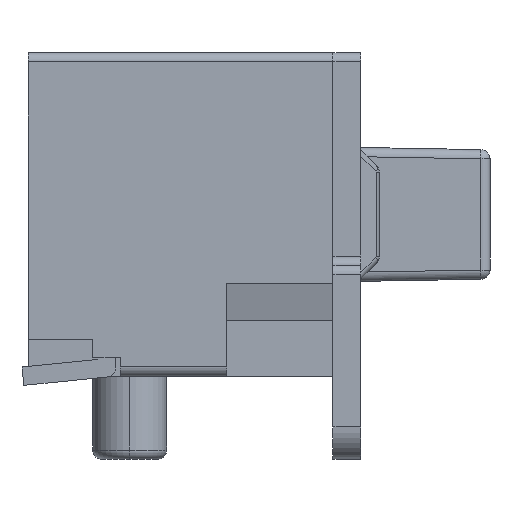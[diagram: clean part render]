
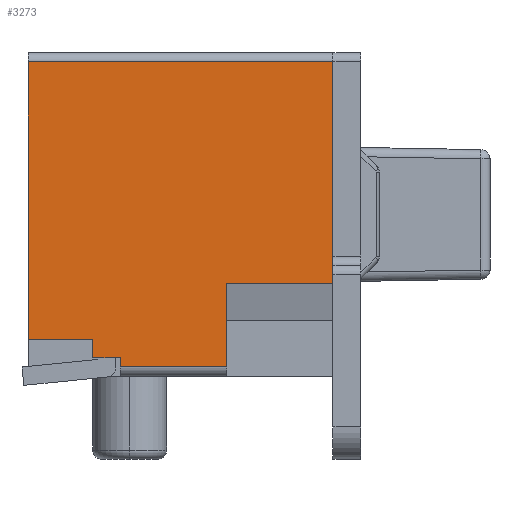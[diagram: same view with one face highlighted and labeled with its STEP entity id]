
A CAD part, left-side view. The second image highlights one B-rep face of the part: STEP entity #3273.
In plain terms, the highlighted planar face has unit normal (-1, 0, 0).
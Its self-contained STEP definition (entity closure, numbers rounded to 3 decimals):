
#132=DIRECTION('',(0.,0.,1.));
#133=VECTOR('',#132,2.4);
#134=CARTESIAN_POINT('',(-3.,0.,-0.75));
#135=LINE('',#134,#133);
#895=DIRECTION('',(0.,0.,1.));
#896=VECTOR('',#895,3.);
#897=CARTESIAN_POINT('',(-3.,3.3,-1.35));
#898=LINE('',#897,#896);
#973=DIRECTION('',(0.,-1.,0.));
#974=VECTOR('',#973,3.3);
#975=CARTESIAN_POINT('',(-3.,3.3,1.65));
#976=LINE('',#975,#974);
#980=DIRECTION('',(0.,1.,0.));
#981=VECTOR('',#980,1.15);
#982=CARTESIAN_POINT('',(-3.,0.,-0.75));
#983=LINE('',#982,#981);
#987=DIRECTION('',(0.,0.,1.));
#988=VECTOR('',#987,0.9);
#989=CARTESIAN_POINT('',(-3.,1.15,-1.65));
#990=LINE('',#989,#988);
#994=DIRECTION('',(0.,-1.,0.));
#995=VECTOR('',#994,1.15);
#996=CARTESIAN_POINT('',(-3.,2.3,-1.65));
#997=LINE('',#996,#995);
#1001=DIRECTION('',(0.,0.,-1.));
#1002=VECTOR('',#1001,0.1);
#1003=CARTESIAN_POINT('',(-3.,2.3,-1.55));
#1004=LINE('',#1003,#1002);
#1008=DIRECTION('',(0.,1.,0.));
#1009=VECTOR('',#1008,0.3);
#1010=CARTESIAN_POINT('',(-3.,2.3,-1.55));
#1011=LINE('',#1010,#1009);
#1015=DIRECTION('',(0.,0.,1.));
#1016=VECTOR('',#1015,0.2);
#1017=CARTESIAN_POINT('',(-3.,2.6,-1.55));
#1018=LINE('',#1017,#1016);
#1022=DIRECTION('',(0.,1.,0.));
#1023=VECTOR('',#1022,0.7);
#1024=CARTESIAN_POINT('',(-3.,2.6,-1.35));
#1025=LINE('',#1024,#1023);
#2146=CARTESIAN_POINT('',(-3.,2.3,-1.55));
#2147=CARTESIAN_POINT('',(-3.,2.6,-1.55));
#2148=VERTEX_POINT('',#2146);
#2149=VERTEX_POINT('',#2147);
#2150=CARTESIAN_POINT('',(-3.,2.6,-1.35));
#2151=CARTESIAN_POINT('',(-3.,3.3,-1.35));
#2152=VERTEX_POINT('',#2150);
#2153=VERTEX_POINT('',#2151);
#2254=CARTESIAN_POINT('',(-3.,0.,-0.75));
#2255=CARTESIAN_POINT('',(-3.,1.15,-0.75));
#2256=VERTEX_POINT('',#2254);
#2257=VERTEX_POINT('',#2255);
#2359=CARTESIAN_POINT('',(-3.,0.,1.65));
#2361=VERTEX_POINT('',#2359);
#2362=CARTESIAN_POINT('',(-3.,3.3,1.65));
#2363=VERTEX_POINT('',#2362);
#2366=CARTESIAN_POINT('',(-3.,1.15,-1.65));
#2368=VERTEX_POINT('',#2366);
#2372=CARTESIAN_POINT('',(-3.,2.3,-1.65));
#2373=VERTEX_POINT('',#2372);
#3249=CARTESIAN_POINT('',(-3.,0.,-1.75));
#3250=DIRECTION('',(-1.,0.,0.));
#3251=DIRECTION('',(0.,0.,1.));
#3252=AXIS2_PLACEMENT_3D('',#3249,#3250,#3251);
#3253=PLANE('',#3252);
#3254=ORIENTED_EDGE('',*,*,#3242,.T.);
#3255=ORIENTED_EDGE('',*,*,#2469,.F.);
#3257=ORIENTED_EDGE('',*,*,#3256,.T.);
#3259=ORIENTED_EDGE('',*,*,#3258,.F.);
#3261=ORIENTED_EDGE('',*,*,#3260,.F.);
#3263=ORIENTED_EDGE('',*,*,#3262,.F.);
#3265=ORIENTED_EDGE('',*,*,#3264,.T.);
#3267=ORIENTED_EDGE('',*,*,#3266,.T.);
#3269=ORIENTED_EDGE('',*,*,#3268,.T.);
#3270=ORIENTED_EDGE('',*,*,#3205,.T.);
#3271=EDGE_LOOP('',(#3254,#3255,#3257,#3259,#3261,#3263,#3265,#3267,#3269,
#3270));
#3272=FACE_OUTER_BOUND('',#3271,.F.);
#2469=EDGE_CURVE('',#2256,#2361,#135,.T.);
#3205=EDGE_CURVE('',#2153,#2363,#898,.T.);
#3242=EDGE_CURVE('',#2363,#2361,#976,.T.);
#3256=EDGE_CURVE('',#2256,#2257,#983,.T.);
#3258=EDGE_CURVE('',#2368,#2257,#990,.T.);
#3260=EDGE_CURVE('',#2373,#2368,#997,.T.);
#3262=EDGE_CURVE('',#2148,#2373,#1004,.T.);
#3264=EDGE_CURVE('',#2148,#2149,#1011,.T.);
#3266=EDGE_CURVE('',#2149,#2152,#1018,.T.);
#3268=EDGE_CURVE('',#2152,#2153,#1025,.T.);
#3273=ADVANCED_FACE('',(#3272),#3253,.T.);
